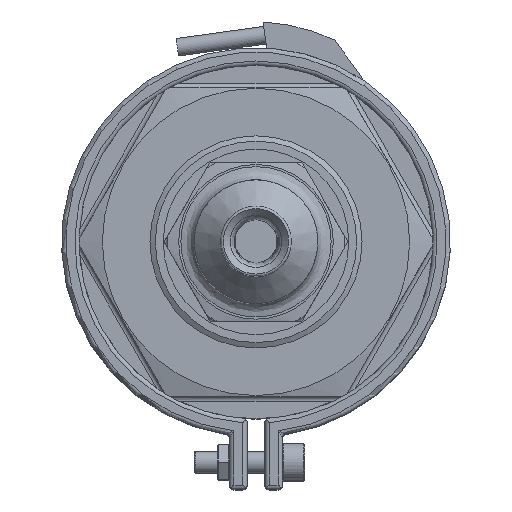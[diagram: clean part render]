
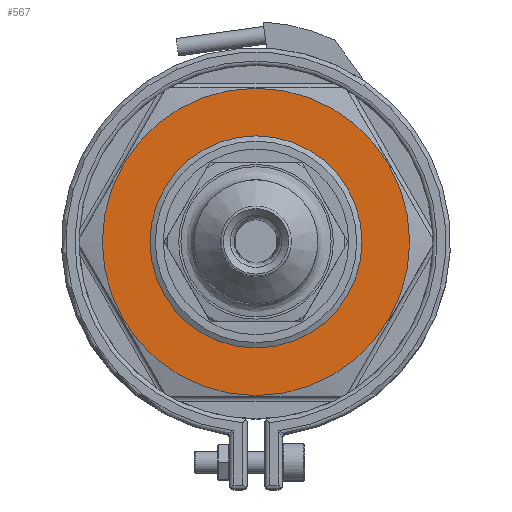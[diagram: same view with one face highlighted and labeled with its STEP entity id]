
A CAD part, top view. The second image highlights one B-rep face of the part: STEP entity #567.
In plain terms, the highlighted planar face has unit normal (0, 0, 1).
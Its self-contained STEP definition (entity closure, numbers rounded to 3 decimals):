
#567=ADVANCED_FACE('',(#1259,#1260),#1261,.F.);
#1259=FACE_OUTER_BOUND('',#2851,.T.);
#1260=FACE_BOUND('',#2852,.T.);
#1261=PLANE('',#2853);
#2851=EDGE_LOOP('',(#4356));
#2852=EDGE_LOOP('',(#4357));
#2853=AXIS2_PLACEMENT_3D('',#4358,#4359,#4360);
#4356=ORIENTED_EDGE('',*,*,#5631,.F.);
#4357=ORIENTED_EDGE('',*,*,#5632,.T.);
#4358=CARTESIAN_POINT('',(-34.788,0.0,0.0));
#4359=DIRECTION('',(-0.0,0.,-1.0));
#4360=DIRECTION('',(0.0,1.0,0.));
#5631=EDGE_CURVE('',#6530,#6530,#6531,.T.);
#5632=EDGE_CURVE('',#6532,#6532,#6533,.T.);
#6530=VERTEX_POINT('',#8027);
#6531=CIRCLE('',#8028,34.788);
#6532=VERTEX_POINT('',#8029);
#6533=CIRCLE('',#8030,24.);
#8027=CARTESIAN_POINT('',(0.0,34.788,0.));
#8028=AXIS2_PLACEMENT_3D('',#9147,#9148,#9149);
#8029=CARTESIAN_POINT('',(0.0,24.,0.));
#8030=AXIS2_PLACEMENT_3D('',#9150,#9151,#9152);
#9147=CARTESIAN_POINT('',(0.0,0.0,0.0));
#9148=DIRECTION('',(-0.0,0.,-1.0));
#9149=DIRECTION('',(0.0,1.0,0.));
#9150=CARTESIAN_POINT('',(0.0,0.0,0.0));
#9151=DIRECTION('',(-0.0,0.,-1.0));
#9152=DIRECTION('',(0.0,1.0,0.));
